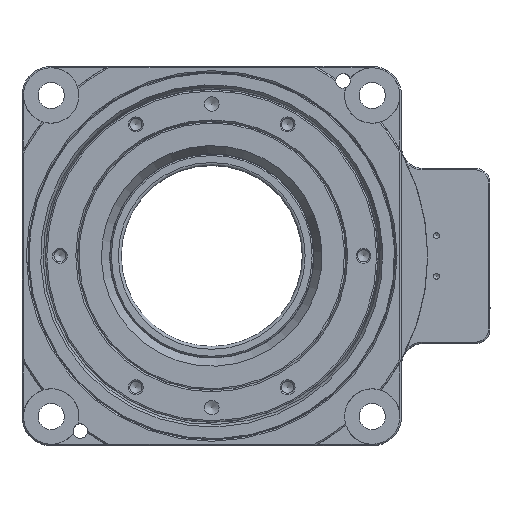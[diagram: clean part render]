
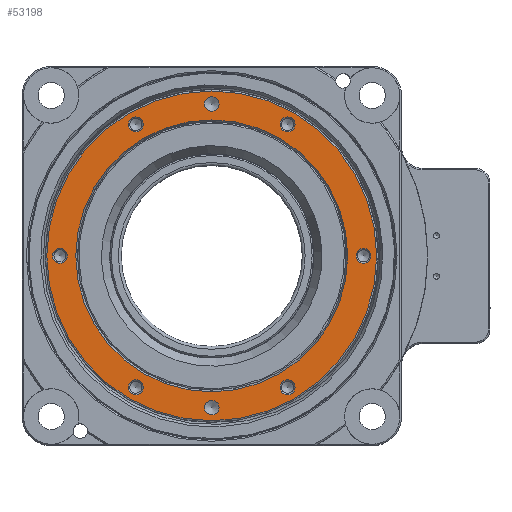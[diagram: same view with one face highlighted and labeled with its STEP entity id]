
A CAD part, top view. The second image highlights one B-rep face of the part: STEP entity #53198.
In plain terms, the highlighted planar face has unit normal (0, 0, 1).
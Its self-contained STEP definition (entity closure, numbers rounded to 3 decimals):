
#51659=CARTESIAN_POINT('',(-52.,2.567,37.));
#51660=VERTEX_POINT('',#51659);
#51661=CARTESIAN_POINT('',(-52.,0.,37.));
#51662=DIRECTION('',(0.0,0.0,1.0));
#51663=DIRECTION('',(0.0,-1.0,0.0));
#51664=AXIS2_PLACEMENT_3D('',#51661,#51662,#51663);
#51665=CIRCLE('',#51664,2.567);
#51666=EDGE_CURVE('',#51660,#51660,#51665,.T.);
#51784=CARTESIAN_POINT('',(-28.223,-43.75,37.));
#51785=VERTEX_POINT('',#51784);
#51786=CARTESIAN_POINT('',(-26.,-45.033,37.));
#51787=DIRECTION('',(0.,0.,1.0));
#51788=DIRECTION('',(0.866,-0.5,0.));
#51789=AXIS2_PLACEMENT_3D('',#51786,#51787,#51788);
#51790=CIRCLE('',#51789,2.567);
#51791=EDGE_CURVE('',#51785,#51785,#51790,.T.);
#51824=CARTESIAN_POINT('',(23.777,-46.317,37.));
#51825=VERTEX_POINT('',#51824);
#51826=CARTESIAN_POINT('',(26.,-45.033,37.));
#51827=DIRECTION('',(0.,0.,1.0));
#51828=DIRECTION('',(0.866,0.5,0.));
#51829=AXIS2_PLACEMENT_3D('',#51826,#51827,#51828);
#51830=CIRCLE('',#51829,2.567);
#51831=EDGE_CURVE('',#51825,#51825,#51830,.T.);
#51864=CARTESIAN_POINT('',(52.,-2.567,37.));
#51865=VERTEX_POINT('',#51864);
#51866=CARTESIAN_POINT('',(52.,0.,37.));
#51867=DIRECTION('',(0.0,0.0,1.0));
#51868=DIRECTION('',(0.0,1.0,0.0));
#51869=AXIS2_PLACEMENT_3D('',#51866,#51867,#51868);
#51870=CIRCLE('',#51869,2.567);
#51871=EDGE_CURVE('',#51865,#51865,#51870,.T.);
#51904=CARTESIAN_POINT('',(28.223,43.75,37.));
#51905=VERTEX_POINT('',#51904);
#51906=CARTESIAN_POINT('',(26.,45.033,37.));
#51907=DIRECTION('',(0.,0.,1.0));
#51908=DIRECTION('',(-0.866,0.5,0.));
#51909=AXIS2_PLACEMENT_3D('',#51906,#51907,#51908);
#51910=CIRCLE('',#51909,2.567);
#51911=EDGE_CURVE('',#51905,#51905,#51910,.T.);
#51944=CARTESIAN_POINT('',(-23.777,46.317,37.));
#51945=VERTEX_POINT('',#51944);
#51946=CARTESIAN_POINT('',(-26.,45.033,37.));
#51947=DIRECTION('',(0.,0.,1.0));
#51948=DIRECTION('',(-0.866,-0.5,0.));
#51949=AXIS2_PLACEMENT_3D('',#51946,#51947,#51948);
#51950=CIRCLE('',#51949,2.567);
#51951=EDGE_CURVE('',#51945,#51945,#51950,.T.);
#51961=CARTESIAN_POINT('',(0.,54.5,37.));
#51962=VERTEX_POINT('',#51961);
#51963=CARTESIAN_POINT('',(0.,52.,37.));
#51964=DIRECTION('',(0.0,0.0,-1.0));
#51965=DIRECTION('',(0.0,1.0,0.0));
#51966=AXIS2_PLACEMENT_3D('',#51963,#51964,#51965);
#51967=CIRCLE('',#51966,2.5);
#51968=EDGE_CURVE('',#51962,#51962,#51967,.T.);
#51998=CARTESIAN_POINT('',(0.,-49.5,37.));
#51999=VERTEX_POINT('',#51998);
#52000=CARTESIAN_POINT('',(0.,-52.,37.));
#52001=DIRECTION('',(0.0,0.0,-1.0));
#52002=DIRECTION('',(0.0,1.0,0.0));
#52003=AXIS2_PLACEMENT_3D('',#52000,#52001,#52002);
#52004=CIRCLE('',#52003,2.5);
#52005=EDGE_CURVE('',#51999,#51999,#52004,.T.);
#52035=CARTESIAN_POINT('',(0.,-46.577,37.));
#52036=VERTEX_POINT('',#52035);
#52037=CARTESIAN_POINT('',(0.,0.,37.));
#52038=DIRECTION('',(0.0,0.0,1.0));
#52039=DIRECTION('',(0.0,1.0,0.0));
#52040=AXIS2_PLACEMENT_3D('',#52037,#52038,#52039);
#52041=CIRCLE('',#52040,46.577);
#52042=EDGE_CURVE('',#52036,#52036,#52041,.T.);
#53155=CARTESIAN_POINT('',(0.,-51.5,37.));
#53156=DIRECTION('',(0.0,0.0,1.0));
#53157=DIRECTION('',(1.0,0.0,0.0));
#53158=AXIS2_PLACEMENT_3D('',#53155,#53156,#53157);
#53159=PLANE('',#53158);
#53160=CARTESIAN_POINT('',(0.,-56.5,37.));
#53161=VERTEX_POINT('',#53160);
#53162=CARTESIAN_POINT('',(0.,0.,37.));
#53163=DIRECTION('',(0.0,0.0,-1.0));
#53164=DIRECTION('',(0.0,1.0,0.0));
#53165=AXIS2_PLACEMENT_3D('',#53162,#53163,#53164);
#53166=CIRCLE('',#53165,56.5);
#53167=EDGE_CURVE('',#53161,#53161,#53166,.T.);
#53168=ORIENTED_EDGE('',*,*,#53167,.F.);
#53169=EDGE_LOOP('',(#53168));
#53170=FACE_OUTER_BOUND('',#53169,.T.);
#53171=ORIENTED_EDGE('',*,*,#52042,.F.);
#53172=EDGE_LOOP('',(#53171));
#53173=FACE_BOUND('',#53172,.T.);
#53174=ORIENTED_EDGE('',*,*,#52005,.T.);
#53175=EDGE_LOOP('',(#53174));
#53176=FACE_BOUND('',#53175,.T.);
#53177=ORIENTED_EDGE('',*,*,#51968,.T.);
#53178=EDGE_LOOP('',(#53177));
#53179=FACE_BOUND('',#53178,.T.);
#53180=ORIENTED_EDGE('',*,*,#51911,.F.);
#53181=EDGE_LOOP('',(#53180));
#53182=FACE_BOUND('',#53181,.T.);
#53183=ORIENTED_EDGE('',*,*,#51831,.F.);
#53184=EDGE_LOOP('',(#53183));
#53185=FACE_BOUND('',#53184,.T.);
#53186=ORIENTED_EDGE('',*,*,#51666,.F.);
#53187=EDGE_LOOP('',(#53186));
#53188=FACE_BOUND('',#53187,.T.);
#53189=ORIENTED_EDGE('',*,*,#51791,.F.);
#53190=EDGE_LOOP('',(#53189));
#53191=FACE_BOUND('',#53190,.T.);
#53192=ORIENTED_EDGE('',*,*,#51871,.F.);
#53193=EDGE_LOOP('',(#53192));
#53194=FACE_BOUND('',#53193,.T.);
#53195=ORIENTED_EDGE('',*,*,#51951,.F.);
#53196=EDGE_LOOP('',(#53195));
#53197=FACE_BOUND('',#53196,.T.);
#53198=ADVANCED_FACE('',(#53170,#53173,#53176,#53179,#53182,#53185,#53188,#53191,#53194,#53197),#53159,.T.);
